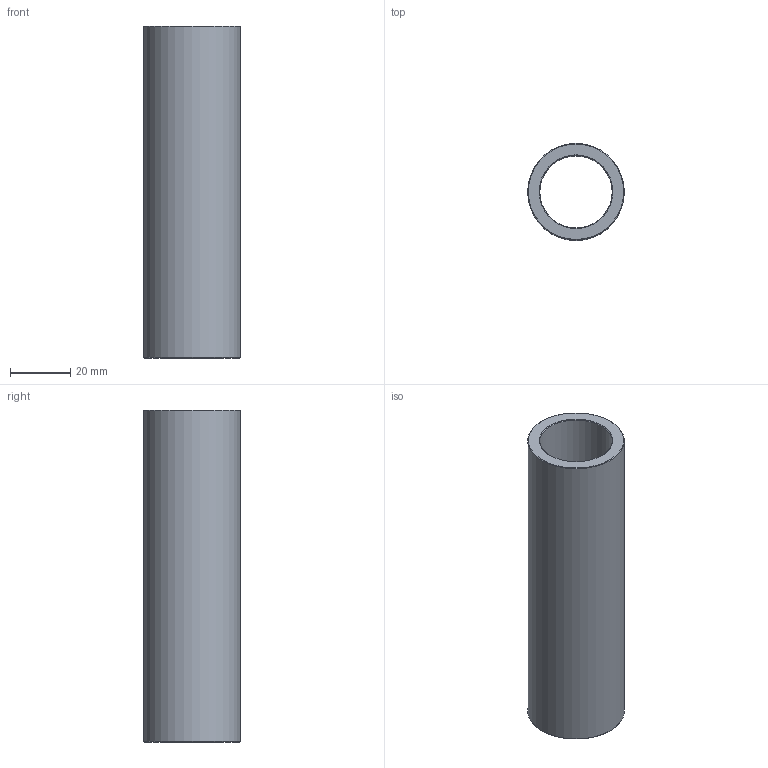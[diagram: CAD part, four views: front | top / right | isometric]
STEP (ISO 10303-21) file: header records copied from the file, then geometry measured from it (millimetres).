
FILE_DESCRIPTION(('STEP AP203'),'1');
FILE_NAME('C:/Users/Rodrigo/Desktop/GA4.024.110-1.step','2016-11-07T14:29:12',(' '),(' '),'Spatial InterOp 3D',' ',' ');
FILE_SCHEMA(('CONFIG_CONTROL_DESIGN'));
Length unit declared in the file: millimetre
Products named in the file (1): 1
Bounding box: 32 x 32 x 110 mm (x, y, z)
Volume: 38697.4 mm3; surface area: 20014.7 mm2
Topology: 1 solids, 1 shells, 8 faces, 14 edges, 8 vertices
Faces by surface type: cone 4, cylinder 2, plane 2
Full cylindrical faces by diameter (mm): 24 x1, 32 x1
Entity records: 212 total; most frequent: DIRECTION 34, CARTESIAN_POINT 25, AXIS2_PLACEMENT_3D 17, EDGE_LOOP 16, ORIENTED_EDGE 16, FACE_OUTER_BOUND 10, ADVANCED_FACE 8, EDGE_CURVE 8
